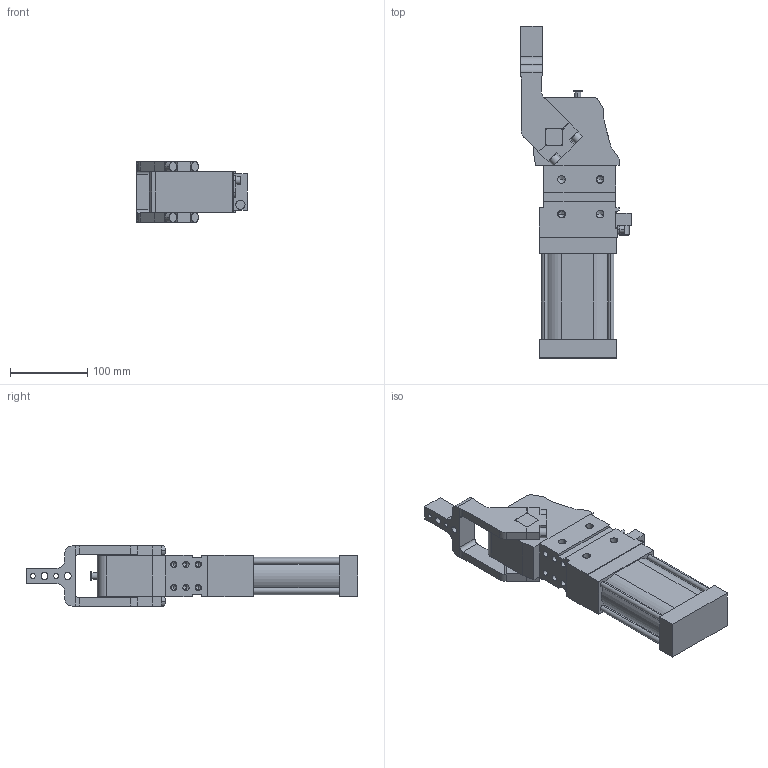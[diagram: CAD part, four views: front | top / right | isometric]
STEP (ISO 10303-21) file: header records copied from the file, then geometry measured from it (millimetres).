
FILE_DESCRIPTION (( 'STEP AP214' ), '1' );
FILE_NAME ('cpl63h1ci1g_107.STEP', '2023-01-26T10:27:19', ( '' ), ( '' ), 'SwSTEP 2.0', 'SolidWorks 2022', '' );
FILE_SCHEMA (( 'AUTOMOTIVE_DESIGN' ));
Length unit declared in the file: millimetre
Products named in the file (4): cpl63h1ci1g_107; meccanica_cpl_63; blocchetto_VEP_0; leva_cx_offset_15_cpl63
Assembly tree (3 placements, depth 2):
  cpl63h1ci1g_107
    meccanica_cpl_63
    blocchetto_VEP_0
    leva_cx_offset_15_cpl63
Bounding box: 143.5 x 430.5 x 79 mm (x, y, z)
Volume: 1779035.3 mm3; surface area: 187989.7 mm2
Topology: 3 solids, 3 shells, 396 faces, 1037 edges, 639 vertices
Faces by surface type: plane 198, cylinder 148, cone 50
Entity records: 13451 total; most frequent: DIRECTION 2119, CARTESIAN_POINT 2116, ORIENTED_EDGE 1982, EDGE_CURVE 991, AXIS2_PLACEMENT_3D 732, LINE 655, VECTOR 655, VERTEX_POINT 639
